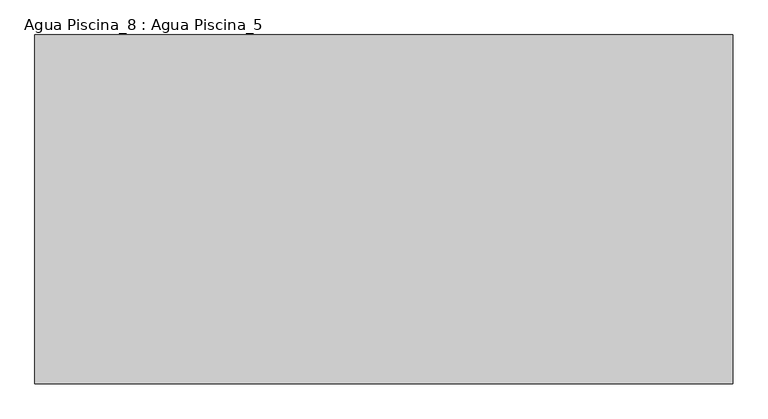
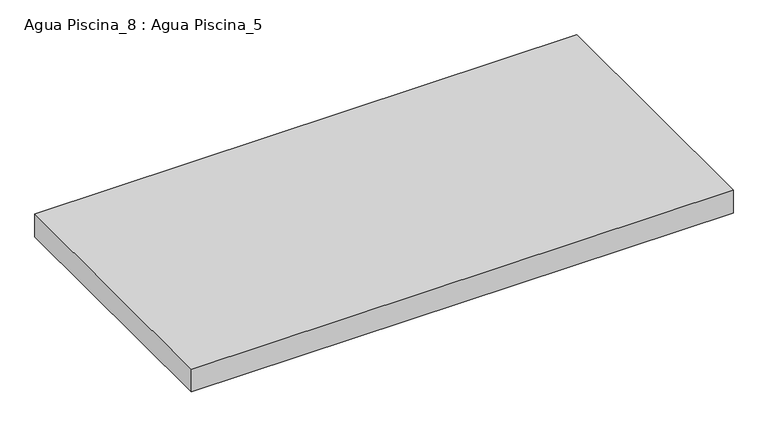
"""IFC4 building model written with IfcOpenShell, lengths in millimetres: proxy geometry, Agua Piscina_8 : Agua Piscina_5."""

from ifc_helpers import new_model, si_unit, frame, origin, place, context, project, spatial, polyline, outline, extrude, source, transform, mapped, element, save


def agua_piscina_8_agua_piscina_5_230db2d3(model_context):
    return source(origin(), model_context, "Body", "SweptSolid", [
        extrude(outline(polyline([(-6311.5387858, -40989.1612333), (-6311.5387858, -44989.1612333), (-14311.5387858, -44989.1612333), (-14311.5387858, -40989.1612333), (-6311.5387858, -40989.1612333)])), frame((0.0, 0.0, 17513.3232298), z_axis=(0.0, 0.0, 1.0), x_axis=(1.0, 0.0, 0.0)), (0.0, 0.0, 1.0), 355.6383775),
    ])


if __name__ == "__main__":
    model = new_model("IFC4")
    model_context = context("Model", 3, world=origin())
    ifc_project = project(units=[si_unit("LENGTHUNIT", "METRE", prefix="MILLI")], contexts=[model_context])
    site = spatial("IfcSite", under=ifc_project)
    building = spatial("IfcBuilding", under=site)
    placement = place(None, origin())
    agua_piscina_8_agua_piscina_5_shape = agua_piscina_8_agua_piscina_5_230db2d3(model_context)
    element("IfcBuildingElementProxy", 1, Name="Agua Piscina_8 : Agua Piscina_5", ObjectType="Agua Piscina_8 : Agua Piscina_5", at=placement, inside=building, context=model_context, shape_type="MappedRepresentation", body=[
        mapped(agua_piscina_8_agua_piscina_5_shape, transform((0.0, 0.0, 0.0), x_axis=(1.0, 0.0, 0.0), y_axis=(0.0, 1.0, 0.0), z_axis=(0.0, 0.0, 1.0))),
    ])
    save(model, "model.ifc")
